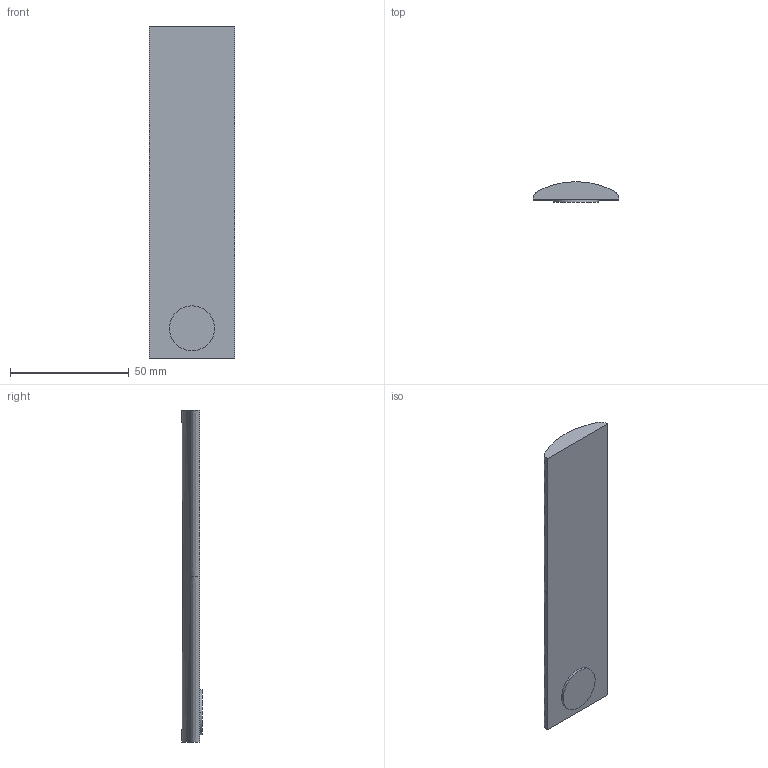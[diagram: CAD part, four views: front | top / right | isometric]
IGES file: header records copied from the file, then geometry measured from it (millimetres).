
Start section:  PTC IGES file: c:\works\pro\hrkatto.igs
Global section: file name: c:\works\pro\hrkatto.igs; native system: Pro/ENGINEER by Parametric Technology Corporation; preprocessor: 2001150; author: telimaa; organization: Unknown; date: 040905.141506; units: millimetre
Bounding box: 36 x 8.5 x 140 mm (x, y, z)
Surface area: 11388.2 mm2 (no closed solid volume)
Topology: 0 solids, 0 shells, 13 faces, 60 edges, 60 vertices
Faces by surface type: bspline 10, revolution 3
